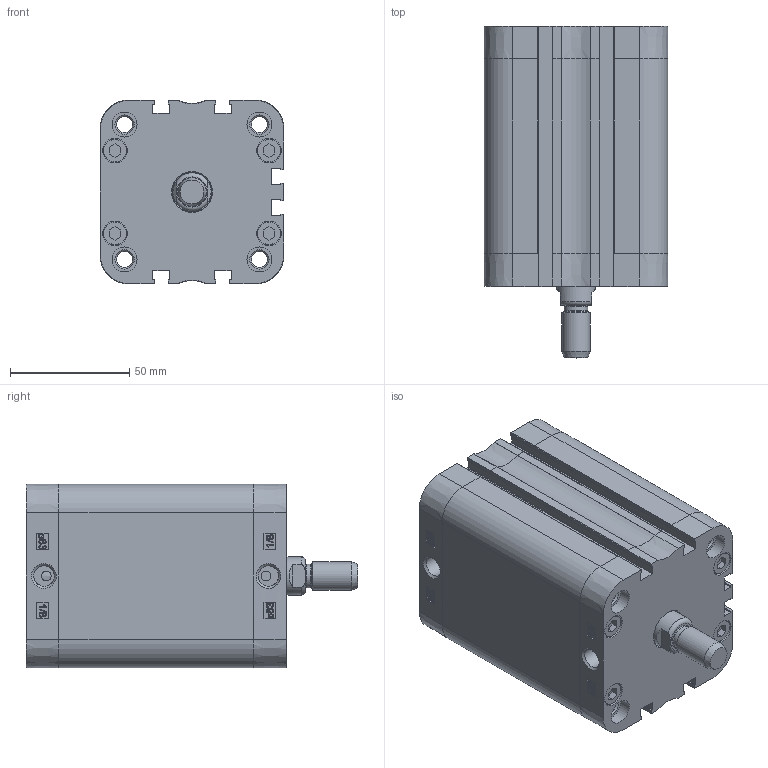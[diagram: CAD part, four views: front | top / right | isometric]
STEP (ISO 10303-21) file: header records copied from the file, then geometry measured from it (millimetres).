
FILE_DESCRIPTION((''),'2;1');
FILE_NAME('T:\Archivio Inventor\- CATALOGHI 2012\SERIE P - NUOVA\PDM\PDM063\PDM063.---.GS.M\PDM063.060.GS.M.stp','2013-02-04T09:27:13',('Administrator'),(''),'Autodesk Inventor 2012','Autodesk Inventor 2012','');
FILE_SCHEMA(('CONFIG_CONTROL_DESIGN'));
Length unit declared in the file: millimetre
Products named in the file (1): PDM063.060.GS.M
Bounding box: 77 x 139 x 77 mm (x, y, z)
Volume: 284872.2 mm3; surface area: 109213.2 mm2
Topology: 1 solids, 5 shells, 824 faces, 1993 edges, 1252 vertices
Faces by surface type: plane 346, bspline 218, cylinder 142, torus 55, cone 45, sphere 18
Full cylindrical faces by diameter (mm): 4 x2, 6.3 x4, 6.647 x8, 8.047 x4, 8.566 x2, 9.8 x8, 10 x1, 10.3 x8, 10.5 x8, 12 x2, 16 x1, 16.5 x1, 63 x1, 65.4 x1, 65.6 x1
Entity records: 27354 total; most frequent: CARTESIAN_POINT 9106, ORIENTED_EDGE 3744, DIRECTION 3031, EDGE_CURVE 1872, VERTEX_POINT 1231, AXIS2_PLACEMENT_3D 1026, EDGE_LOOP 1003, VECTOR 979
